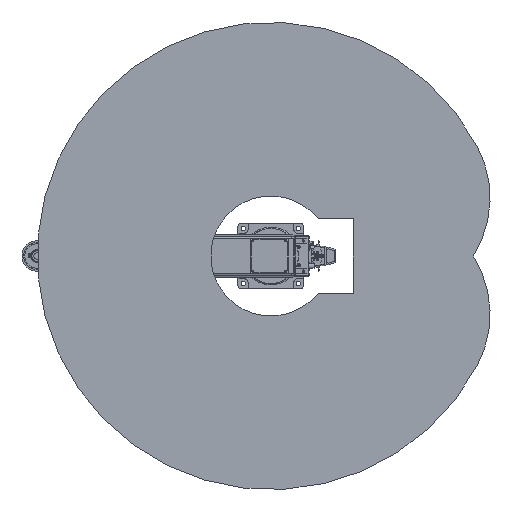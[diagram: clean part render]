
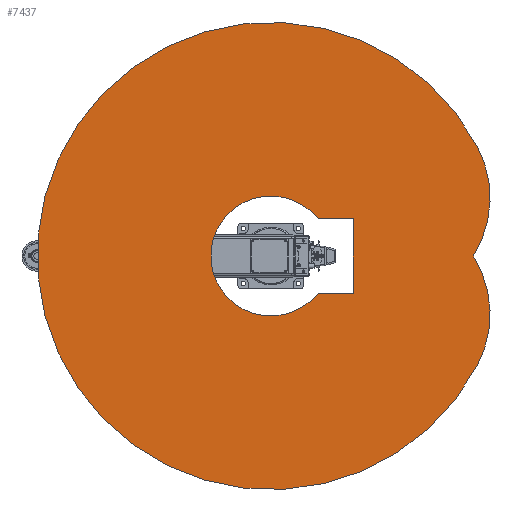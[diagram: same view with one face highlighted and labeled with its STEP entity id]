
A CAD part, front view. The second image highlights one B-rep face of the part: STEP entity #7437.
In plain terms, the highlighted planar face has unit normal (0, -1, 0).
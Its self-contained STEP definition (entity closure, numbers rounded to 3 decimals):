
#7437 = ADVANCED_FACE( '', ( #15975, #15976 ), #15977, .F. );
#15975 = FACE_BOUND( '', #25938, .T. );
#15976 = FACE_OUTER_BOUND( '', #25939, .T. );
#15977 = PLANE( '', #25940 );
#25938 = EDGE_LOOP( '', ( #46062, #46063, #46064, #46065 ) );
#25939 = EDGE_LOOP( '', ( #46066, #46067, #46068 ) );
#25940 = AXIS2_PLACEMENT_3D( '', #46069, #46070, #46071 );
#46062 = ORIENTED_EDGE( '', *, *, #54167, .T. );
#46063 = ORIENTED_EDGE( '', *, *, #54121, .T. );
#46064 = ORIENTED_EDGE( '', *, *, #53639, .T. );
#46065 = ORIENTED_EDGE( '', *, *, #49082, .T. );
#46066 = ORIENTED_EDGE( '', *, *, #55062, .F. );
#46067 = ORIENTED_EDGE( '', *, *, #53665, .F. );
#46068 = ORIENTED_EDGE( '', *, *, #47682, .F. );
#46069 = CARTESIAN_POINT( '', ( 105.631, 0., 198.663 ) );
#46070 = DIRECTION( '', ( 0., 1., 0. ) );
#46071 = DIRECTION( '', ( 0., 0., 1. ) );
#47682 = EDGE_CURVE( '', #55800, #55801, #55802, .T. );
#49082 = EDGE_CURVE( '', #58245, #58246, #58247, .T. );
#53639 = EDGE_CURVE( '', #65183, #58245, #65184, .T. );
#53665 = EDGE_CURVE( '', #55801, #65226, #65227, .T. );
#54121 = EDGE_CURVE( '', #65814, #65183, #65815, .T. );
#54167 = EDGE_CURVE( '', #58246, #65814, #65870, .T. );
#55062 = EDGE_CURVE( '', #65226, #55800, #66916, .T. );
#55800 = VERTEX_POINT( '', #67866 );
#55801 = VERTEX_POINT( '', #67867 );
#55802 = CIRCLE( '', #67868, 850. );
#58245 = VERTEX_POINT( '', #71625 );
#58246 = VERTEX_POINT( '', #71626 );
#58247 = LINE( '', #71627, #71628 );
#65183 = VERTEX_POINT( '', #83575 );
#65184 = LINE( '', #83576, #83577 );
#65226 = VERTEX_POINT( '', #83637 );
#65227 = CIRCLE( '', #83638, 400. );
#65814 = VERTEX_POINT( '', #84656 );
#65815 = CIRCLE( '', #84657, 218.3 );
#65870 = LINE( '', #84749, #84750 );
#66916 = CIRCLE( '', #86306, 400. );
#67866 = CARTESIAN_POINT( '', ( 399.051, 0., 750.505 ) );
#67867 = CARTESIAN_POINT( '', ( -399.051, 0., 750.505 ) );
#67868 = AXIS2_PLACEMENT_3D( '', #87061, #87062, #87063 );
#71625 = CARTESIAN_POINT( '', ( -135., 0., 300. ) );
#71626 = CARTESIAN_POINT( '', ( 135., 0., 300. ) );
#71627 = CARTESIAN_POINT( '', ( -135., 0., 300. ) );
#71628 = VECTOR( '', #88919, 1000. );
#83575 = CARTESIAN_POINT( '', ( -135., 0., 171.551 ) );
#83576 = CARTESIAN_POINT( '', ( -135., 0., 171.551 ) );
#83577 = VECTOR( '', #94384, 1000. );
#83637 = CARTESIAN_POINT( '', ( 0., 0., 736.985 ) );
#83638 = AXIS2_PLACEMENT_3D( '', #94415, #94416, #94417 );
#84656 = CARTESIAN_POINT( '', ( 135., 0., 171.551 ) );
#84657 = AXIS2_PLACEMENT_3D( '', #94853, #94854, #94855 );
#84749 = CARTESIAN_POINT( '', ( 135., 0., 300. ) );
#84750 = VECTOR( '', #94898, 1000. );
#86306 = AXIS2_PLACEMENT_3D( '', #95613, #95614, #95615 );
#87061 = CARTESIAN_POINT( '', ( 0., 0., 0. ) );
#87062 = DIRECTION( '', ( 0., 1., 0. ) );
#87063 = DIRECTION( '', ( 1., 0., 0. ) );
#88919 = DIRECTION( '', ( 1., 0., 0. ) );
#94384 = DIRECTION( '', ( 0., 0., 1. ) );
#94415 = CARTESIAN_POINT( '', ( -211.262, 0., 397.326 ) );
#94416 = DIRECTION( '', ( 0., 1., 0. ) );
#94417 = DIRECTION( '', ( 1., 0., 0. ) );
#94853 = CARTESIAN_POINT( '', ( 0., 0., 0. ) );
#94854 = DIRECTION( '', ( 0., 1., 0. ) );
#94855 = DIRECTION( '', ( 1., 0., 0. ) );
#94898 = DIRECTION( '', ( 0., 0., -1. ) );
#95613 = CARTESIAN_POINT( '', ( 211.262, 0., 397.326 ) );
#95614 = DIRECTION( '', ( 0., 1., 0. ) );
#95615 = DIRECTION( '', ( 1., 0., 0. ) );
